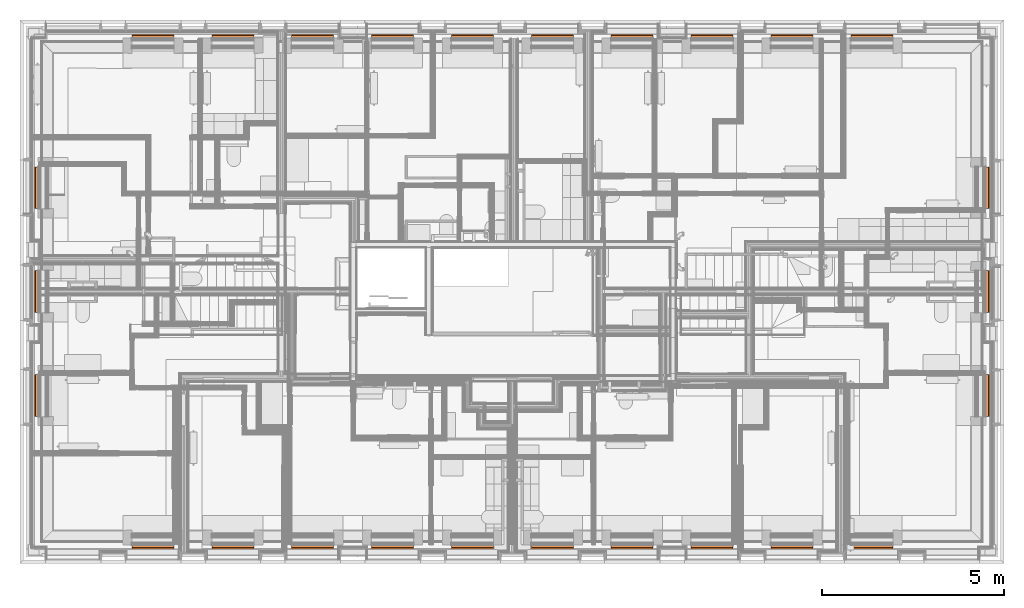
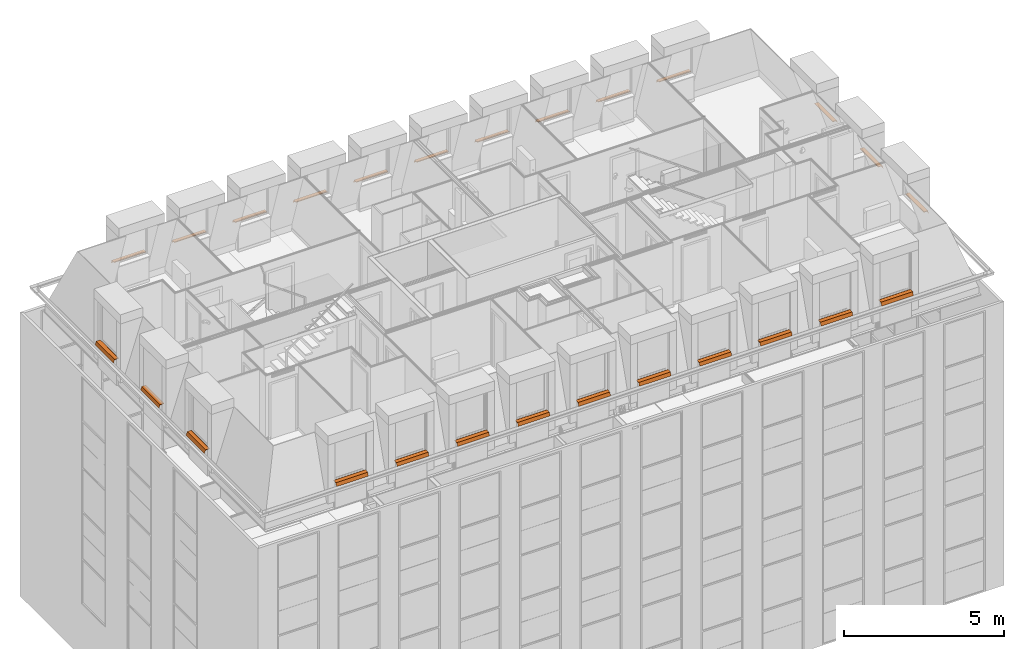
# One storey, part 169 of 169: 26 proxies.
"""IFC2X3 building model written with IfcOpenShell, lengths in metres."""

from ifc_helpers import new_model, entity, si_unit, converted_unit, derived_unit, money_unit, direction, frame, origin_with_axes, place, context, subcontext, project, spatial, open_shell, surface_model, element, save


model = new_model("IFC2X3")

# Units and contexts
model_context = context("Model", 3, precision=1e-05, world=origin_with_axes(), true_north=direction((0.0, 1.0)))
body_context = subcontext(model_context, "Body", "Model", "MODEL_VIEW", scale=1.0)
ifc_project = project(units=[si_unit("LENGTHUNIT", "METRE"), si_unit("AREAUNIT", "SQUARE_METRE"), si_unit("VOLUMEUNIT", "CUBIC_METRE"), si_unit("ABSORBEDDOSEUNIT", "GRAY"), si_unit("AMOUNTOFSUBSTANCEUNIT", "MOLE"), si_unit("DOSEEQUIVALENTUNIT", "SIEVERT"), si_unit("ELECTRICCAPACITANCEUNIT", "FARAD"), si_unit("ELECTRICCHARGEUNIT", "COULOMB"), si_unit("ELECTRICCONDUCTANCEUNIT", "SIEMENS"), si_unit("ELECTRICCURRENTUNIT", "AMPERE"), si_unit("ELECTRICRESISTANCEUNIT", "OHM"), si_unit("ELECTRICVOLTAGEUNIT", "VOLT"), si_unit("ENERGYUNIT", "JOULE"), si_unit("FORCEUNIT", "NEWTON"), si_unit("FREQUENCYUNIT", "HERTZ"), si_unit("ILLUMINANCEUNIT", "LUX"), si_unit("INDUCTANCEUNIT", "HENRY"), si_unit("LUMINOUSFLUXUNIT", "LUMEN"), si_unit("LUMINOUSINTENSITYUNIT", "CANDELA"), si_unit("MAGNETICFLUXDENSITYUNIT", "TESLA"), si_unit("MAGNETICFLUXUNIT", "WEBER"), si_unit("MASSUNIT", "GRAM"), converted_unit("PLANEANGLEUNIT", "degree", entity("IfcReal", 0.0174532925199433), si_unit("PLANEANGLEUNIT", "RADIAN"), dimensions=[0, 0, 0, 0, 0, 0, 0]), si_unit("POWERUNIT", "WATT"), si_unit("PRESSUREUNIT", "PASCAL"), si_unit("RADIOACTIVITYUNIT", "BECQUEREL"), si_unit("SOLIDANGLEUNIT", "STERADIAN"), si_unit("THERMODYNAMICTEMPERATUREUNIT", "KELVIN"), si_unit("TIMEUNIT", "SECOND"), derived_unit("ACCELERATIONUNIT", [(si_unit("LENGTHUNIT", "METRE"), 1), (si_unit("TIMEUNIT", "SECOND"), -2)]), derived_unit("ANGULARVELOCITYUNIT", [(converted_unit("PLANEANGLEUNIT", "degree", entity("IfcReal", 0.0174532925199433), si_unit("PLANEANGLEUNIT", "RADIAN"), dimensions=[0, 0, 0, 0, 0, 0, 0]), 1), (si_unit("TIMEUNIT", "SECOND"), -1)]), derived_unit("CURVATUREUNIT", [(converted_unit("PLANEANGLEUNIT", "degree", entity("IfcReal", 0.0174532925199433), si_unit("PLANEANGLEUNIT", "RADIAN"), dimensions=[0, 0, 0, 0, 0, 0, 0]), 1), (si_unit("LENGTHUNIT", "METRE"), -1)]), derived_unit("DYNAMICVISCOSITYUNIT", [(si_unit("PRESSUREUNIT", "PASCAL"), 1), (si_unit("TIMEUNIT", "SECOND"), 1)]), derived_unit("HEATFLUXDENSITYUNIT", [(si_unit("POWERUNIT", "WATT"), 1), (si_unit("LENGTHUNIT", "METRE"), -2)]), derived_unit("HEATINGVALUEUNIT", [(si_unit("ENERGYUNIT", "JOULE"), 1), (si_unit("MASSUNIT", "GRAM"), -1)]), derived_unit("INTEGERCOUNTRATEUNIT", [(si_unit("TIMEUNIT", "SECOND"), -1)]), derived_unit("IONCONCENTRATIONUNIT", [(si_unit("MASSUNIT", "GRAM"), 1), (si_unit("VOLUMEUNIT", "CUBIC_METRE"), -1)]), derived_unit("ISOTHERMALMOISTURECAPACITYUNIT", [(si_unit("VOLUMEUNIT", "CUBIC_METRE"), 1), (si_unit("MASSUNIT", "GRAM"), -1)]), derived_unit("KINEMATICVISCOSITYUNIT", [(si_unit("AREAUNIT", "SQUARE_METRE"), 1), (si_unit("TIMEUNIT", "SECOND"), -1)]), derived_unit("LINEARFORCEUNIT", [(si_unit("FORCEUNIT", "NEWTON"), 1), (si_unit("LENGTHUNIT", "METRE"), -1)]), derived_unit("LINEARMOMENTUNIT", [(si_unit("FORCEUNIT", "NEWTON"), 1), (si_unit("LENGTHUNIT", "METRE"), -1)]), derived_unit("LINEARSTIFFNESSUNIT", [(si_unit("FORCEUNIT", "NEWTON"), 1), (si_unit("LENGTHUNIT", "METRE"), -1)]), derived_unit("LINEARVELOCITYUNIT", [(si_unit("LENGTHUNIT", "METRE"), 1), (si_unit("TIMEUNIT", "SECOND"), -1)]), derived_unit("LUMINOUSINTENSITYDISTRIBUTIONUNIT", [(si_unit("LUMINOUSINTENSITYUNIT", "CANDELA"), 1), (si_unit("LUMINOUSFLUXUNIT", "LUMEN"), -1)]), derived_unit("MASSDENSITYUNIT", [(si_unit("MASSUNIT", "GRAM"), 1), (si_unit("VOLUMEUNIT", "CUBIC_METRE"), -1)]), derived_unit("MASSFLOWRATEUNIT", [(si_unit("MASSUNIT", "GRAM"), 1), (si_unit("TIMEUNIT", "SECOND"), -1)]), derived_unit("MASSPERLENGTHUNIT", [(si_unit("MASSUNIT", "GRAM"), 1), (si_unit("LENGTHUNIT", "METRE"), -1)]), derived_unit("MODULUSOFELASTICITYUNIT", [(si_unit("FORCEUNIT", "NEWTON"), 1), (si_unit("AREAUNIT", "SQUARE_METRE"), -1)]), derived_unit("MODULUSOFLINEARSUBGRADEREACTIONUNIT", [(si_unit("FORCEUNIT", "NEWTON"), 1), (si_unit("LENGTHUNIT", "METRE"), -2)]), derived_unit("MODULUSOFROTATIONALSUBGRADEREACTIONUNIT", [(si_unit("FORCEUNIT", "NEWTON"), 1), (si_unit("LENGTHUNIT", "METRE"), 1)]), derived_unit("MODULUSOFSUBGRADEREACTIONUNIT", [(si_unit("FORCEUNIT", "NEWTON"), 1), (si_unit("VOLUMEUNIT", "CUBIC_METRE"), -1)]), derived_unit("MOISTUREDIFFUSIVITYUNIT", [(si_unit("VOLUMEUNIT", "CUBIC_METRE"), 1), (si_unit("TIMEUNIT", "SECOND"), -1)]), derived_unit("MOLECULARWEIGHTUNIT", [(si_unit("MASSUNIT", "GRAM"), 1), (si_unit("AMOUNTOFSUBSTANCEUNIT", "MOLE"), -1)]), derived_unit("PLANARFORCEUNIT", [(si_unit("FORCEUNIT", "NEWTON"), 1), (si_unit("LENGTHUNIT", "METRE"), -2)]), derived_unit("ROTATIONALFREQUENCYUNIT", [(si_unit("TIMEUNIT", "SECOND"), -1)]), derived_unit("ROTATIONALMASSUNIT", [(si_unit("MASSUNIT", "GRAM"), 1), (si_unit("LENGTHUNIT", "METRE"), 2)]), derived_unit("ROTATIONALSTIFFNESSUNIT", [(si_unit("FORCEUNIT", "NEWTON"), 1), (si_unit("LENGTHUNIT", "METRE"), 1), (converted_unit("PLANEANGLEUNIT", "degree", entity("IfcReal", 0.0174532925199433), si_unit("PLANEANGLEUNIT", "RADIAN"), dimensions=[0, 0, 0, 0, 0, 0, 0]), -1)]), derived_unit("SECTIONAREAINTEGRALUNIT", [(si_unit("LENGTHUNIT", "METRE"), 5)]), derived_unit("SECTIONMODULUSUNIT", [(si_unit("LENGTHUNIT", "METRE"), 3)]), derived_unit("SHEARMODULUSUNIT", [(si_unit("FORCEUNIT", "NEWTON"), 1), (si_unit("AREAUNIT", "SQUARE_METRE"), -1)]), derived_unit("SOUNDPOWERUNIT", [(si_unit("ENERGYUNIT", "JOULE"), 1), (si_unit("TIMEUNIT", "SECOND"), -1)]), derived_unit("SPECIFICHEATCAPACITYUNIT", [(si_unit("FORCEUNIT", "NEWTON"), 1), (si_unit("MASSUNIT", "GRAM"), -1), (si_unit("THERMODYNAMICTEMPERATUREUNIT", "KELVIN"), -1)]), derived_unit("TEMPERATUREGRADIENTUNIT", [(si_unit("THERMODYNAMICTEMPERATUREUNIT", "KELVIN"), 1), (si_unit("LENGTHUNIT", "METRE"), -1)]), derived_unit("THERMALADMITTANCEUNIT", [(si_unit("POWERUNIT", "WATT"), 1), (si_unit("AREAUNIT", "SQUARE_METRE"), -1), (si_unit("THERMODYNAMICTEMPERATUREUNIT", "KELVIN"), -1)]), derived_unit("THERMALCONDUCTANCEUNIT", [(si_unit("POWERUNIT", "WATT"), 1), (si_unit("LENGTHUNIT", "METRE"), -1), (si_unit("THERMODYNAMICTEMPERATUREUNIT", "KELVIN"), -1)]), derived_unit("THERMALEXPANSIONCOEFFICIENTUNIT", [(si_unit("THERMODYNAMICTEMPERATUREUNIT", "KELVIN"), -1)]), derived_unit("THERMALRESISTANCEUNIT", [(si_unit("AREAUNIT", "SQUARE_METRE"), 1), (si_unit("POWERUNIT", "WATT"), -1)]), derived_unit("THERMALTRANSMITTANCEUNIT", [(si_unit("POWERUNIT", "WATT"), 1), (si_unit("AREAUNIT", "SQUARE_METRE"), -1), (si_unit("THERMODYNAMICTEMPERATUREUNIT", "KELVIN"), -1)]), derived_unit("TORQUEUNIT", [(si_unit("FORCEUNIT", "NEWTON"), 1), (si_unit("LENGTHUNIT", "METRE"), 1)]), derived_unit("VAPORPERMEABILITYUNIT", [(si_unit("MASSUNIT", "GRAM"), 1), (si_unit("TIMEUNIT", "SECOND"), -1)]), derived_unit("VOLUMETRICFLOWRATEUNIT", [(si_unit("VOLUMEUNIT", "CUBIC_METRE"), 1), (si_unit("TIMEUNIT", "SECOND"), -1)]), derived_unit("WARPINGCONSTANTUNIT", [(si_unit("LENGTHUNIT", "METRE"), 6)]), derived_unit("WARPINGMOMENTUNIT", [(si_unit("FORCEUNIT", "NEWTON"), 1), (si_unit("LENGTHUNIT", "METRE"), 2)]), money_unit("GBP")], contexts=[model_context])

# Site, building, storey
site_placement = place(None, origin_with_axes())
site = spatial("IfcSite", under=ifc_project, at=site_placement, Name="Site", CompositionType="ELEMENT")
building_placement = place(site_placement, origin_with_axes())
building = spatial("IfcBuilding", under=site, at=building_placement, Name="Building01", CompositionType="ELEMENT")
storey_placement = place(building_placement, frame((0.0, 0.0, 5.15), z_axis=(0.0, 0.0, 1.0), x_axis=(1.0, 0.0, 0.0)))
storey = spatial("IfcBuildingStorey", under=building, at=storey_placement, Name="1F", CompositionType="ELEMENT", Elevation=5.15)

# Proxies
for number, where, z_axis, x_axis in (
    (1, (23.354976, 14.416295, 10.7925), (0.0, 0.0, 1.0), (1.0, 0.0, 0.0)),
    (2, (21.165024, 14.416295, 10.7925), (0.0, 0.0, 1.0), (1.0, 0.0, 0.0)),
    (3, (18.975024, 14.416295, 10.7925), (0.0, 0.0, 1.0), (1.0, 0.0, 0.0)),
    (4, (16.785024, 14.416295, 10.7925), (0.0, 0.0, 1.0), (1.0, 0.0, 0.0)),
    (5, (14.595024, 14.416295, 10.7925), (0.0, 0.0, 1.0), (1.0, 0.0, 0.0)),
    (6, (12.405024, 14.416295, 10.7925), (0.0, 0.0, 1.0), (1.0, 0.0, 0.0)),
    (7, (10.215024, 14.416295, 10.7925), (0.0, 0.0, 1.0), (1.0, 0.0, 0.0)),
    (8, (8.025024, 14.416295, 10.7925), (0.0, 0.0, 1.0), (1.0, 0.0, 0.0)),
    (9, (5.835024, 14.416295, 10.7925), (0.0, 0.0, 1.0), (1.0, 0.0, 0.0)),
    (10, (3.645025, 14.416295, 10.7925), (0.0, 0.0, 1.0), (1.0, 0.0, 0.0)),
    (11, (0.48374, 10.299915, 10.7925), (0.0, 0.0, 1.0), (0.0, 1.0, 0.0)),
    (12, (0.48374, 7.449915, 10.7925), (0.0, 0.0, 1.0), (0.0, 1.0, 0.0)),
    (13, (0.48374, 4.599976, 10.7925), (0.0, 0.0, 1.0), (0.0, 1.0, 0.0)),
):
    element("IfcBuildingElementProxy", number, at=place(storey_placement, frame(where, z_axis=z_axis, x_axis=x_axis)), inside=storey, context=body_context, shape_type="SurfaceModel", body=[
        surface_model("IfcShellBasedSurfaceModel", [(0.575, -0.091599, 0.059998), (0.575, 0.050791, 0.055005), (0.575, 0.056479, 0.0375), (0.575, -0.091599, 0.0375), (-0.575, -0.091599, 0.059998), (-0.575, -0.091599, 0.0375), (-0.575, 0.050791, 0.055005), (-0.575, 0.056479, 0.0375), (0.575, -0.091599, 0.0675), (0.575, -0.090599, 0.0675), (0.575, -0.089099, 0.062412), (0.575, 0.052628, 0.057442), (0.575, 0.0916, -0.0625), (0.575, 0.0916, -0.0675), (0.575, 0.0891, -0.0675), (0.575, 0.0891, -0.062896), (-0.575, -0.091599, 0.0675), (-0.575, -0.090599, 0.0675), (-0.575, -0.089099, 0.062412), (-0.575, 0.052628, 0.057442), (-0.575, 0.0916, -0.0625), (-0.575, 0.0916, -0.0675), (-0.575, 0.0891, -0.0675), (-0.575, 0.0891, -0.062896)], [open_shell([[[0, 1, 2, 3]], [[0, 4, 5, 3]], [[1, 6, 4, 0]], [[2, 7, 6, 1]], [[3, 5, 7, 2]], [[4, 6, 7, 5]], [[3, 2, 1, 0]], [[8, 9, 10, 11, 12, 13, 14, 15, 1, 0]], [[8, 16, 4, 0]], [[9, 17, 16, 8]], [[10, 18, 17, 9]], [[11, 19, 18, 10]], [[12, 20, 19, 11]], [[13, 21, 20, 12]], [[14, 22, 21, 13]], [[15, 23, 22, 14]], [[1, 6, 23, 15]], [[0, 4, 6, 1]], [[16, 17, 18, 19, 20, 21, 22, 23, 6, 4]], [[0, 1, 15, 14, 13, 12, 11, 10, 9, 8]]])]),
    ])
for number, where, z_axis, x_axis in (
    (14, (3.645025, 0.48374, 10.7925), (0.0, 0.0, 1.0), (-1.0, 0.0, 0.0)),
    (15, (5.835025, 0.48374, 10.7925), (0.0, 0.0, 1.0), (-1.0, 0.0, 0.0)),
    (16, (8.025024, 0.48374, 10.7925), (0.0, 0.0, 1.0), (-1.0, 0.0, 0.0)),
    (17, (10.215024, 0.48374, 10.7925), (0.0, 0.0, 1.0), (-1.0, 0.0, 0.0)),
    (18, (12.405024, 0.48374, 10.7925), (0.0, 0.0, 1.0), (-1.0, 0.0, 0.0)),
    (19, (14.595024, 0.48374, 10.7925), (0.0, 0.0, 1.0), (-1.0, 0.0, 0.0)),
    (20, (16.785025, 0.48374, 10.7925), (0.0, 0.0, 1.0), (-1.0, 0.0, 0.0)),
    (21, (18.975025, 0.48374, 10.7925), (0.0, 0.0, 1.0), (-1.0, 0.0, 0.0)),
    (22, (21.165025, 0.48374, 10.7925), (0.0, 0.0, 1.0), (-1.0, 0.0, 0.0)),
    (23, (23.355025, 0.48374, 10.7925), (0.0, 0.0, 1.0), (-1.0, 0.0, 0.0)),
    (24, (26.49626, 4.599964, 10.7925), (0.0, 0.0, 1.0), (0.0, -1.0, 0.0)),
    (25, (26.49626, 7.449964, 10.7925), (0.0, 0.0, 1.0), (0.0, -1.0, 0.0)),
    (26, (26.49626, 10.299964, 10.7925), (0.0, 0.0, 1.0), (0.0, -1.0, 0.0)),
):
    element("IfcBuildingElementProxy", number, at=place(storey_placement, frame(where, z_axis=z_axis, x_axis=x_axis)), inside=storey, context=body_context, shape_type="SurfaceModel", body=[
        surface_model("IfcShellBasedSurfaceModel", [(-0.575, -0.091599, 0.059998), (-0.575, 0.050791, 0.055005), (-0.575, 0.056479, 0.0375), (-0.575, -0.091599, 0.0375), (0.575, -0.091599, 0.059998), (0.575, -0.091599, 0.0375), (0.575, 0.050791, 0.055005), (0.575, 0.056479, 0.0375), (-0.575, -0.091599, 0.0675), (-0.575, -0.090599, 0.0675), (-0.575, -0.089099, 0.062412), (-0.575, 0.052628, 0.057442), (-0.575, 0.0916, -0.0625), (-0.575, 0.0916, -0.0675), (-0.575, 0.0891, -0.0675), (-0.575, 0.0891, -0.062896), (0.575, -0.091599, 0.0675), (0.575, -0.090599, 0.0675), (0.575, -0.089099, 0.062412), (0.575, 0.052628, 0.057442), (0.575, 0.0916, -0.0625), (0.575, 0.0916, -0.0675), (0.575, 0.0891, -0.0675), (0.575, 0.0891, -0.062896)], [open_shell([[[0, 1, 2, 3]], [[0, 4, 5, 3]], [[1, 6, 4, 0]], [[2, 7, 6, 1]], [[3, 5, 7, 2]], [[4, 6, 7, 5]], [[3, 2, 1, 0]], [[8, 9, 10, 11, 12, 13, 14, 15, 1, 0]], [[8, 16, 4, 0]], [[9, 17, 16, 8]], [[10, 18, 17, 9]], [[11, 19, 18, 10]], [[12, 20, 19, 11]], [[13, 21, 20, 12]], [[14, 22, 21, 13]], [[15, 23, 22, 14]], [[1, 6, 23, 15]], [[0, 4, 6, 1]], [[16, 17, 18, 19, 20, 21, 22, 23, 6, 4]], [[0, 1, 15, 14, 13, 12, 11, 10, 9, 8]]])]),
    ])

save(model, "model.ifc")
